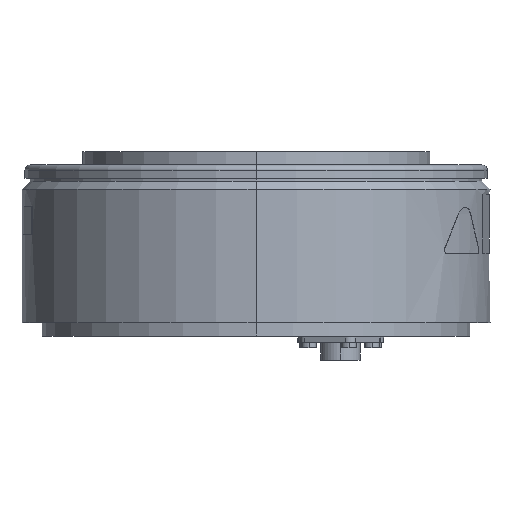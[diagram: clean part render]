
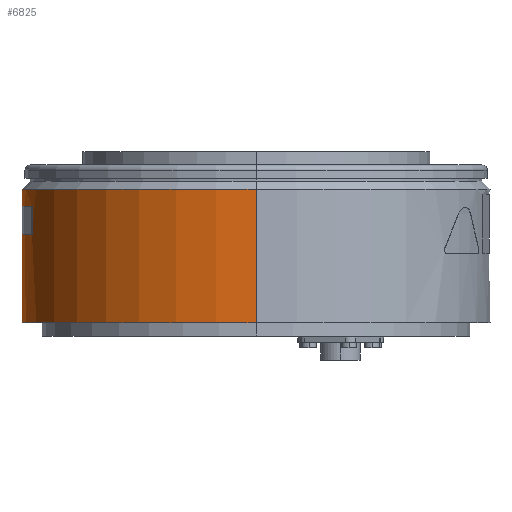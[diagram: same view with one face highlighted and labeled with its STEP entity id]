
A CAD part, left-side view. The second image highlights one B-rep face of the part: STEP entity #6825.
In plain terms, the highlighted cylindrical face has radius 87.5 mm (diameter 175 mm), a partial arc.
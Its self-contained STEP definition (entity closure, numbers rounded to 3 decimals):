
#1372 = CARTESIAN_POINT ( 'NONE',  ( -25., 83.853, 0. ) ) ;
#1373 = LINE ( 'NONE', #1372, #1386 ) ;
#1383 = LINE ( 'NONE', #1424, #1423 ) ;
#1385 = DIRECTION ( 'NONE',  ( 0., 0., 1. ) ) ;
#1386 = VECTOR ( 'NONE', #1385, 1000. ) ;
#1393 = CARTESIAN_POINT ( 'NONE',  ( 25., 83.853, 38. ) ) ;
#1416 = CARTESIAN_POINT ( 'NONE',  ( -87.5, 0., 55. ) ) ;
#1422 = DIRECTION ( 'NONE',  ( 0., 0., -1. ) ) ;
#1423 = VECTOR ( 'NONE', #1422, 1000. ) ;
#1424 = CARTESIAN_POINT ( 'NONE',  ( 25., 83.853, 0. ) ) ;
#1425 = DIRECTION ( 'NONE',  ( 0., 0., -1. ) ) ;
#1426 = VECTOR ( 'NONE', #1425, 1000. ) ;
#1431 = CARTESIAN_POINT ( 'NONE',  ( -87.5, 0., 0. ) ) ;
#1432 = LINE ( 'NONE', #1431, #1426 ) ;
#1454 = CARTESIAN_POINT ( 'NONE',  ( -25., 83.853, 48.5 ) ) ;
#1460 = CIRCLE ( 'NONE', #1465, 87.5 ) ;
#1461 = CARTESIAN_POINT ( 'NONE',  ( 87.5, 0., 55. ) ) ;
#1462 = DIRECTION ( 'NONE',  ( -1., 0., 0. ) ) ;
#1463 = DIRECTION ( 'NONE',  ( 0., 0., -1. ) ) ;
#1464 = CARTESIAN_POINT ( 'NONE',  ( 0., 0., 55. ) ) ;
#1465 = AXIS2_PLACEMENT_3D ( 'NONE', #1464, #1463, #1462 ) ;
#1516 = DIRECTION ( 'NONE',  ( 0., 0., 1. ) ) ;
#1517 = CARTESIAN_POINT ( 'NONE',  ( 0., 0., 38. ) ) ;
#1518 = AXIS2_PLACEMENT_3D ( 'NONE', #1517, #1516, #1610 ) ;
#1560 = CARTESIAN_POINT ( 'NONE',  ( -25., 83.853, 38. ) ) ;
#1607 = CARTESIAN_POINT ( 'NONE',  ( 87.5, 0., 5. ) ) ;
#1609 = CARTESIAN_POINT ( 'NONE',  ( 25., 83.853, 48.5 ) ) ;
#1610 = DIRECTION ( 'NONE',  ( -1., 0., 0. ) ) ;
#1611 = CIRCLE ( 'NONE', #1518, 87.5 ) ;
#2059 = DIRECTION ( 'NONE',  ( -1., 0., 0. ) ) ;
#2065 = FACE_OUTER_BOUND ( 'NONE', #6894, .T. ) ;
#2067 = CARTESIAN_POINT ( 'NONE',  ( 0., 0., 0. ) ) ;
#2088 = CYLINDRICAL_SURFACE ( 'NONE', #2091, 87.5 ) ;
#2090 = DIRECTION ( 'NONE',  ( 0., 0., -1. ) ) ;
#2091 = AXIS2_PLACEMENT_3D ( 'NONE', #2067, #2090, #2059 ) ;
#2092 = FACE_BOUND ( 'NONE', #6136, .T. ) ;
#5746 = DIRECTION ( 'NONE',  ( 1., 0., 0. ) ) ;
#5774 = DIRECTION ( 'NONE',  ( 0., 0., -1. ) ) ;
#5775 = AXIS2_PLACEMENT_3D ( 'NONE', #5803, #5774, #5812 ) ;
#5776 = CIRCLE ( 'NONE', #5775, 87.5 ) ;
#5777 = CARTESIAN_POINT ( 'NONE',  ( -87.5, 0., 5. ) ) ;
#5782 = CARTESIAN_POINT ( 'NONE',  ( 0., 0., 48.5 ) ) ;
#5803 = CARTESIAN_POINT ( 'NONE',  ( 0., 0., 5. ) ) ;
#5808 = DIRECTION ( 'NONE',  ( 0., 0., -1. ) ) ;
#5809 = VECTOR ( 'NONE', #5808, 1000. ) ;
#5810 = CARTESIAN_POINT ( 'NONE',  ( 87.5, 0., 0. ) ) ;
#5811 = DIRECTION ( 'NONE',  ( 0., 0., -1. ) ) ;
#5812 = DIRECTION ( 'NONE',  ( -1., 0., 0. ) ) ;
#5813 = LINE ( 'NONE', #5810, #5809 ) ;
#5819 = CIRCLE ( 'NONE', #5827, 87.5 ) ;
#5827 = AXIS2_PLACEMENT_3D ( 'NONE', #5782, #5811, #5746 ) ;
#6136 = EDGE_LOOP ( 'NONE', ( #6896, #6776, #6895, #6947 ) ) ;
#6771 = VERTEX_POINT ( 'NONE', #5777 ) ;
#6772 = ORIENTED_EDGE ( 'NONE', *, *, #6774, .T. ) ;
#6773 = EDGE_CURVE ( 'NONE', #6771, #6946, #5776, .T. ) ;
#6774 = EDGE_CURVE ( 'NONE', #6933, #6946, #5813, .T. ) ;
#6775 = EDGE_CURVE ( 'NONE', #6929, #6945, #5819, .T. ) ;
#6776 = ORIENTED_EDGE ( 'NONE', *, *, #6928, .F. ) ;
#6825 = ADVANCED_FACE ( 'NONE', ( #2092, #2065 ), #2088, .T. ) ;
#6884 = EDGE_CURVE ( 'NONE', #6942, #6929, #1373, .T. ) ;
#6885 = EDGE_CURVE ( 'NONE', #6945, #6886, #1383, .T. ) ;
#6886 = VERTEX_POINT ( 'NONE', #1393 ) ;
#6888 = ORIENTED_EDGE ( 'NONE', *, *, #6773, .F. ) ;
#6889 = EDGE_CURVE ( 'NONE', #6892, #6771, #1432, .T. ) ;
#6892 = VERTEX_POINT ( 'NONE', #1416 ) ;
#6894 = EDGE_LOOP ( 'NONE', ( #6943, #6772, #6888, #6944 ) ) ;
#6895 = ORIENTED_EDGE ( 'NONE', *, *, #6885, .F. ) ;
#6896 = ORIENTED_EDGE ( 'NONE', *, *, #6884, .F. ) ;
#6928 = EDGE_CURVE ( 'NONE', #6886, #6942, #1611, .T. ) ;
#6929 = VERTEX_POINT ( 'NONE', #1454 ) ;
#6931 = EDGE_CURVE ( 'NONE', #6892, #6933, #1460, .T. ) ;
#6933 = VERTEX_POINT ( 'NONE', #1461 ) ;
#6942 = VERTEX_POINT ( 'NONE', #1560 ) ;
#6943 = ORIENTED_EDGE ( 'NONE', *, *, #6931, .T. ) ;
#6944 = ORIENTED_EDGE ( 'NONE', *, *, #6889, .F. ) ;
#6945 = VERTEX_POINT ( 'NONE', #1609 ) ;
#6946 = VERTEX_POINT ( 'NONE', #1607 ) ;
#6947 = ORIENTED_EDGE ( 'NONE', *, *, #6775, .F. ) ;
